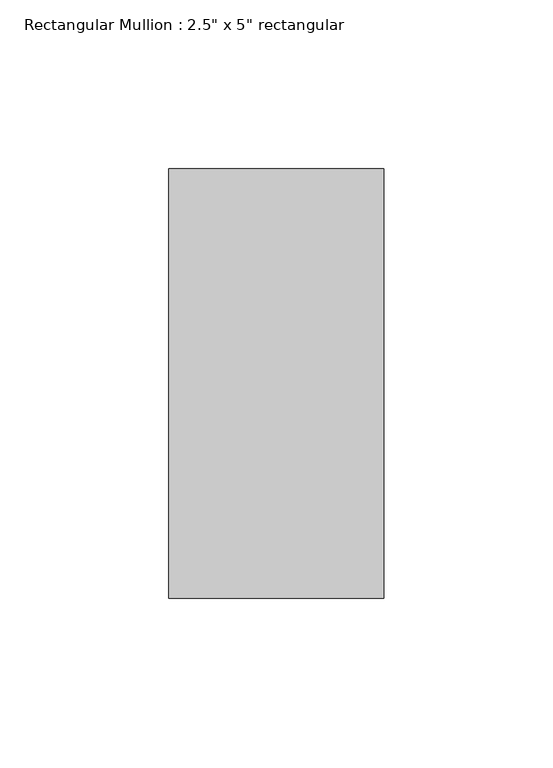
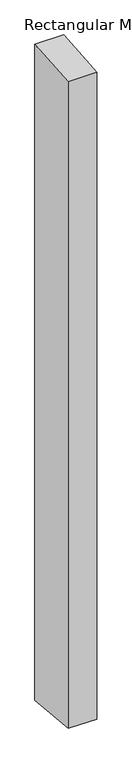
"""IFC4 building model written with IfcOpenShell, lengths in millimetres: member geometry."""

from ifc_helpers import new_model, si_unit, origin, place, context, project, spatial, faceted_brep, source, transform, mapped, element, save


def member_70710cef(model_context):
    return source(origin(), model_context, "Body", "Brep", [
        faceted_brep([(-63.5, 63.5, 5.1631429), (0.0, 63.5, 5.3081563), (0.0, 63.5, -1529.3081563), (-63.5, 63.5, -1529.1631429), (-63.5, -63.5, -5.4531698), (-63.5, -63.5, -1518.5468302), (0.0, -63.5, -5.3081563), (0.0, -63.5, -1518.6918437)], [[[0, 1, 2, 3]], [[4, 0, 3, 5]], [[6, 4, 5, 7]], [[1, 6, 7, 2]], [[1, 0, 4, 6]], [[2, 7, 5, 3]]]),
    ])


if __name__ == "__main__":
    model = new_model("IFC4")
    model_context = context("Model", 3, world=origin())
    ifc_project = project(units=[si_unit("LENGTHUNIT", "METRE", prefix="MILLI")], contexts=[model_context])
    site = spatial("IfcSite", under=ifc_project)
    building = spatial("IfcBuilding", under=site)
    placement = place(None, origin())
    member_shape = member_70710cef(model_context)
    element("IfcMember", 1, ObjectType="Rectangular Mullion : 2.5\" x 5\" rectangular", at=placement, inside=building, context=model_context, shape_type="MappedRepresentation", body=[
        mapped(member_shape, transform((0.0, 0.0, 0.0), x_axis=(1.0, 0.0, 0.0), y_axis=(0.0, 1.0, 0.0), z_axis=(0.0, 0.0, 1.0))),
    ])
    save(model, "model.ifc")
